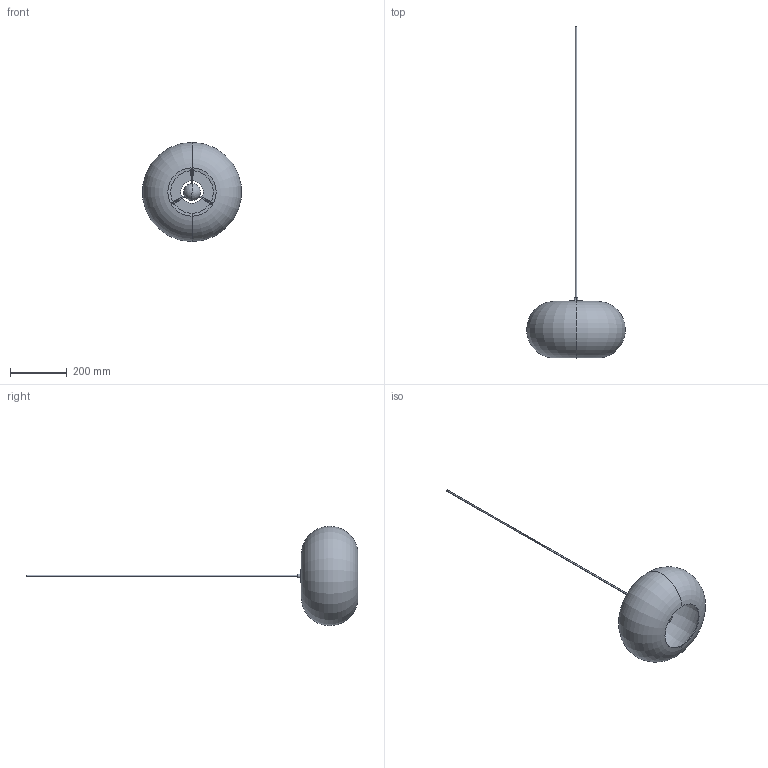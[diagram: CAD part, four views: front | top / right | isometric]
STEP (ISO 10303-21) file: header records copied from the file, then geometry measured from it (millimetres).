
FILE_DESCRIPTION (( 'STEP AP203' ), '1' );
FILE_NAME ('KOBE lampe.STEP', '2018-04-03T07:57:08', ( '' ), ( '' ), 'SwSTEP 2.0', 'SolidWorks 2018', '' );
FILE_SCHEMA (( 'CONFIG_CONTROL_DESIGN' ));
Length unit declared in the file: millimetre
Products named in the file (11): 70042 E27 Socket outer shell, black; (70128) Black cable, 1 m; KOBE lampe; 70106 E27 socket insert, black, EU and AU; 38005 Cable protector E27 kl.2 transparent; 70108 E27 socket bottom, black, EU and AU; E27 Socket, black, plain 70042, 70108, 70106, 38005; KOBE glas; E27 GLOBE lille Ø60mm; KOBE fatningscover med ophæng; E27 Socket+wire+bulb
Assembly tree (10 placements, depth 4):
  KOBE lampe
    KOBE glas
    KOBE fatningscover med ophæng
    E27 Socket+wire+bulb
      (70128) Black cable, 1 m
      E27 GLOBE lille Ø60mm
      E27 Socket, black, plain 70042, 70108, 70106, 38005
        70042 E27 Socket outer shell, black
        70108 E27 socket bottom, black, EU and AU
        70106 E27 socket insert, black, EU and AU
        38005 Cable protector E27 kl.2 transparent
Bounding box: 347.2 x 1169.71 x 349.75 mm (x, y, z)
Volume: 912970 mm3; surface area: 649168.2 mm2
Topology: 14 solids, 14 shells, 188 faces, 388 edges, 237 vertices
Faces by surface type: cylinder 75, plane 45, torus 42, cone 14, sphere 10, bspline 2
Entity records: 9095 total; most frequent: CARTESIAN_POINT 3822, DIRECTION 1026, ORIENTED_EDGE 740, AXIS2_PLACEMENT_3D 465, EDGE_CURVE 370, CIRCLE 264, VERTEX_POINT 227, EDGE_LOOP 217
